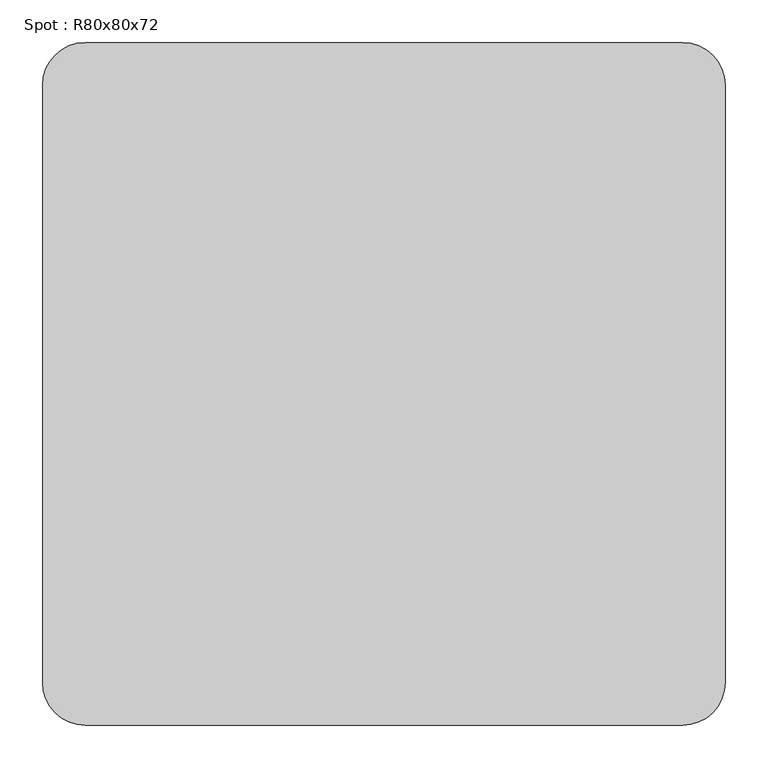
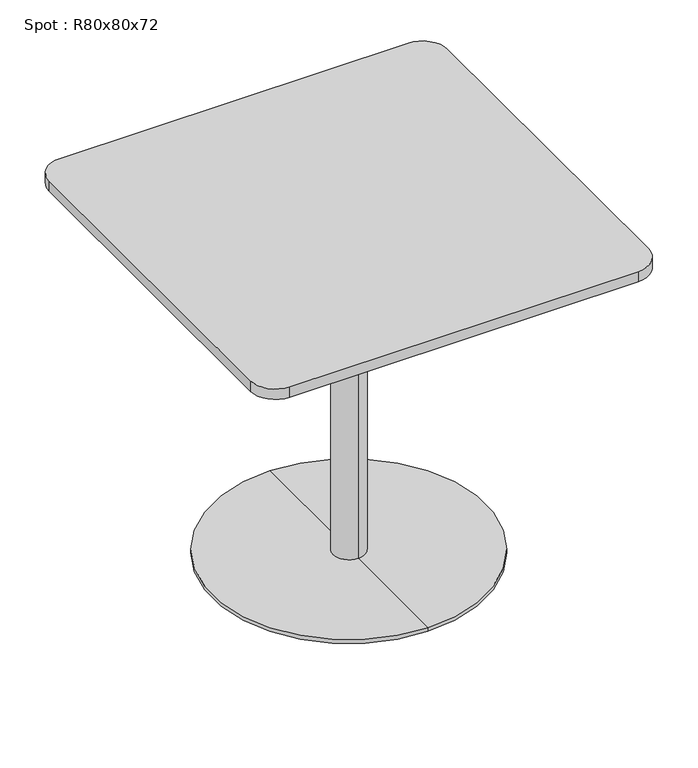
"""IFC4 building model written with IfcOpenShell, lengths in millimetres: furniture geometry, Spot : R80x80x72."""

from ifc_helpers import new_model, si_unit, point, frame, frame_2d, origin, place, context, project, spatial, polyline, circle_curve, trimmed, segment, composite_curve, outline, extrude, source, transform, mapped, element, save
from ifc_brep_helpers import plane_surface, cylinder_surface, revolved_surface, advanced_brep


def spot_r80x80x72_c527adf2(model_context):
    return source(origin(), model_context, "Body", "SolidModel", [
        extrude(outline(composite_curve([segment(trimmed(circle_curve(frame_2d((350.0, 350.0)), 50.0), [point((350.0, 400.0))], [point((400.0, 350.0))], False, "CARTESIAN"), True, "CONTINUOUS"), segment(polyline([(400.0, 350.0), (400.0, -350.0)]), True, "CONTINUOUS"), segment(trimmed(circle_curve(frame_2d((350.0, -350.0)), 50.0), [point((400.0, -350.0))], [point((350.0, -400.0))], False, "CARTESIAN"), True, "CONTINUOUS"), segment(polyline([(350.0, -400.0), (-350.0, -400.0)]), True, "CONTINUOUS"), segment(trimmed(circle_curve(frame_2d((-350.0, -350.0)), 50.0), [point((-350.0, -400.0))], [point((-400.0, -350.0))], False, "CARTESIAN"), True, "CONTINUOUS"), segment(polyline([(-400.0, -350.0), (-400.0, 350.0)]), True, "CONTINUOUS"), segment(trimmed(circle_curve(frame_2d((-350.0, 350.0)), 50.0), [point((-400.0, 350.0))], [point((-350.0, 400.0))], False, "CARTESIAN"), True, "CONTINUOUS"), segment(polyline([(-350.0, 400.0), (350.0, 400.0)]), True, "CONTINUOUS")], self_intersect=False)), frame((0.0, 0.0, 698.0), z_axis=(0.0, 0.0, 1.0), x_axis=(1.0, 0.0, 0.0)), (0.0, 0.0, 1.0), 22.0),
        advanced_brep(
        [(0.0, 32.0, 10.0), (0.0, -32.0, 10.0), (0.0, -32.0, 667.406916), (0.0, 32.0, 667.406916), (0.0, 275.0, 10.0), (0.0, -275.0, 10.0), (0.0, 275.0, 2.0), (0.0, -275.0, 2.0), (0.0, 0.0, 2.0), (0.0, 150.0, 698.0), (0.0, -150.0, 698.0), (0.0, 0.0, 698.0), (0.0, 150.0, 686.7213673), (0.0, -150.0, 686.7213673)],
        [
            (0, 1, circle_curve(frame((0.0, 0.0, 10.0), z_axis=(0.0, 0.0, 1.0), x_axis=(0.0, -1.0, 0.0)), 32.0)),
            (1, 2),
            (2, 3, circle_curve(frame((0.0, 0.0, 667.406916), z_axis=(0.0, 0.0, -1.0), x_axis=(0.0, -1.0, 0.0)), 32.0)),
            (3, 0),
            (1, 0, circle_curve(frame((0.0, 0.0, 10.0), z_axis=(0.0, 0.0, 1.0), x_axis=(0.0, -1.0, 0.0)), 32.0)),
            (3, 2, circle_curve(frame((0.0, 0.0, 667.406916), z_axis=(0.0, 0.0, -1.0), x_axis=(0.0, -1.0, 0.0)), 32.0)),
            (4, 5, circle_curve(frame((0.0, 0.0, 10.0), z_axis=(0.0, 0.0, 1.0), x_axis=(0.0, -1.0, 0.0)), 275.0)),
            (5, 1),
            (0, 4),
            (5, 4, circle_curve(frame((0.0, 0.0, 10.0), z_axis=(0.0, 0.0, 1.0), x_axis=(0.0, -1.0, 0.0)), 275.0)),
            (6, 7, circle_curve(frame((0.0, 0.0, 2.0), z_axis=(0.0, 0.0, 1.0), x_axis=(0.0, -1.0, 0.0)), 275.0)),
            (7, 5),
            (4, 6),
            (7, 6, circle_curve(frame((0.0, 0.0, 2.0), z_axis=(0.0, 0.0, 1.0), x_axis=(0.0, -1.0, 0.0)), 275.0)),
            (8, 7),
            (6, 8),
            (9, 10, circle_curve(frame((0.0, 0.0, 698.0), z_axis=(0.0, 0.0, 1.0), x_axis=(0.0, -1.0, 0.0)), 150.0)),
            (10, 11),
            (11, 9),
            (10, 9, circle_curve(frame((0.0, 0.0, 698.0), z_axis=(0.0, 0.0, 1.0), x_axis=(0.0, -1.0, 0.0)), 150.0)),
            (12, 13, circle_curve(frame((0.0, 0.0, 686.7213673), z_axis=(0.0, 0.0, 1.0), x_axis=(0.0, -1.0, 0.0)), 150.0)),
            (13, 10),
            (9, 12),
            (13, 12, circle_curve(frame((0.0, 0.0, 686.7213673), z_axis=(0.0, 0.0, 1.0), x_axis=(0.0, -1.0, 0.0)), 150.0)),
            (2, 13),
            (12, 3),
        ],
        [
            cylinder_surface(frame((0.0, 0.0, 1060.0), z_axis=(0.0, 0.0, -1.0), x_axis=(0.0, -1.0, 0.0)), 32.0),
            plane_surface(frame((0.0, 0.0, 10.0), z_axis=(0.0, 0.0, 1.0), x_axis=(0.0, -1.0, 0.0))),
            cylinder_surface(frame((0.0, 0.0, 1060.0), z_axis=(0.0, 0.0, -1.0), x_axis=(0.0, -1.0, 0.0)), 275.0),
            plane_surface(frame((0.0, 0.0, 2.0), z_axis=(0.0, 0.0, -1.0), x_axis=(0.0, -1.0, 0.0))),
            plane_surface(frame((0.0, 0.0, 698.0), z_axis=(0.0, 0.0, 1.0), x_axis=(0.0, -1.0, 0.0))),
            cylinder_surface(frame((0.0, 0.0, 1060.0), z_axis=(0.0, 0.0, -1.0), x_axis=(0.0, -1.0, 0.0)), 150.0),
            revolved_surface(polyline([(0.0, -150.0, 686.7213673), (0.0, -32.0, 667.406916)]), (0.0, 0.0, 1060.0), (0.0, 0.0, -1.0)),
        ],
        [
            (0, [[1, 2, 3, 4]]),
            (0, [[5, -4, 6, -2]]),
            (1, [[7, 8, -1, 9]]),
            (1, [[10, -9, -5, -8]]),
            (2, [[11, 12, -7, 13]]),
            (2, [[14, -13, -10, -12]]),
            (3, [[15, -11, 16]]),
            (3, [[-16, -14, -15]]),
            (4, [[17, 18, 19]]),
            (4, [[20, -19, -18]]),
            (5, [[21, 22, -17, 23]]),
            (5, [[24, -23, -20, -22]]),
            (6, [[-3, 25, -21, 26]]),
            (6, [[-6, -26, -24, -25]]),
        ],
    ),
    ])


if __name__ == "__main__":
    model = new_model("IFC4")
    model_context = context("Model", 3, world=origin())
    ifc_project = project(units=[si_unit("LENGTHUNIT", "METRE", prefix="MILLI")], contexts=[model_context])
    site = spatial("IfcSite", under=ifc_project)
    building = spatial("IfcBuilding", under=site)
    placement = place(None, origin())
    spot_r80x80x72_shape = spot_r80x80x72_c527adf2(model_context)
    element("IfcFurniture", 1, ObjectType="Spot : R80x80x72", at=placement, inside=building, context=model_context, shape_type="MappedRepresentation", body=[
        mapped(spot_r80x80x72_shape, transform((0.0, 0.0, 0.0), x_axis=(1.0, 0.0, 0.0), y_axis=(0.0, 1.0, 0.0), z_axis=(0.0, 0.0, 1.0))),
    ])
    save(model, "model.ifc")
